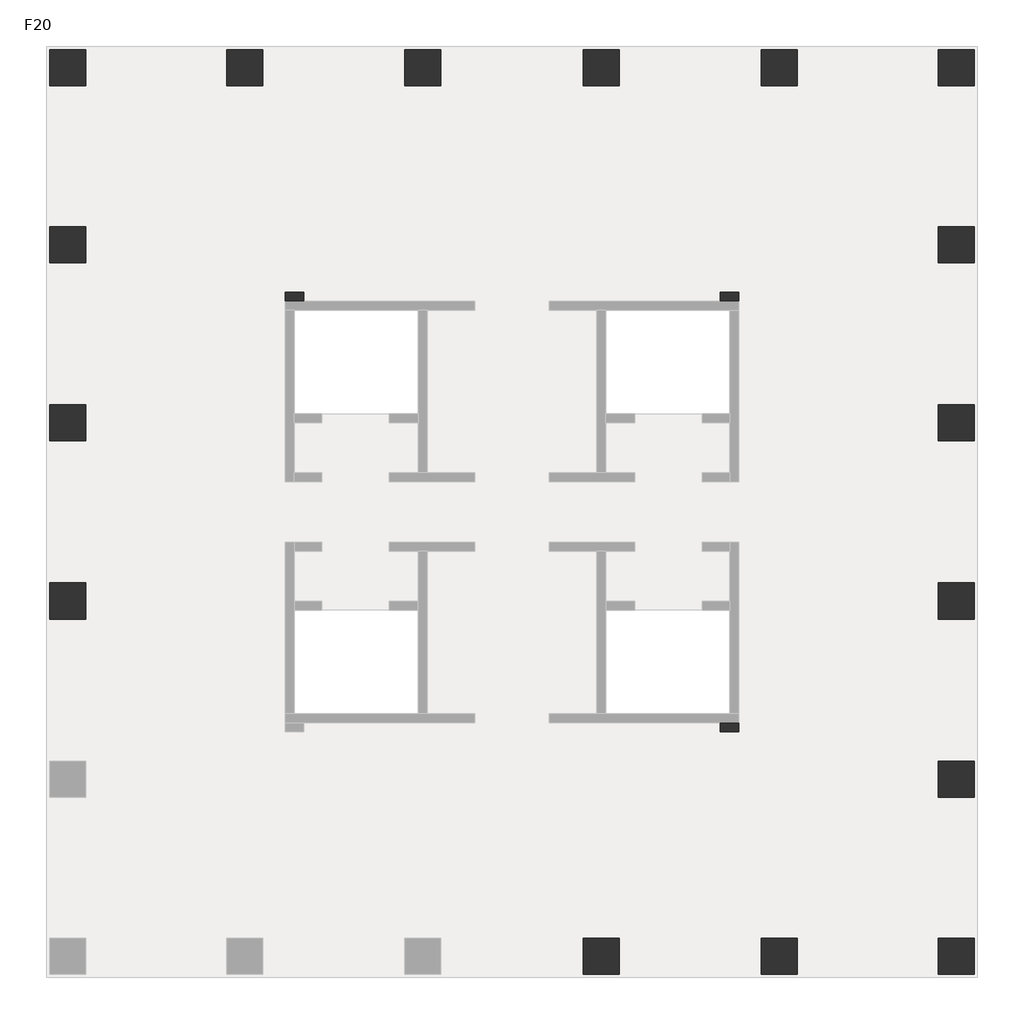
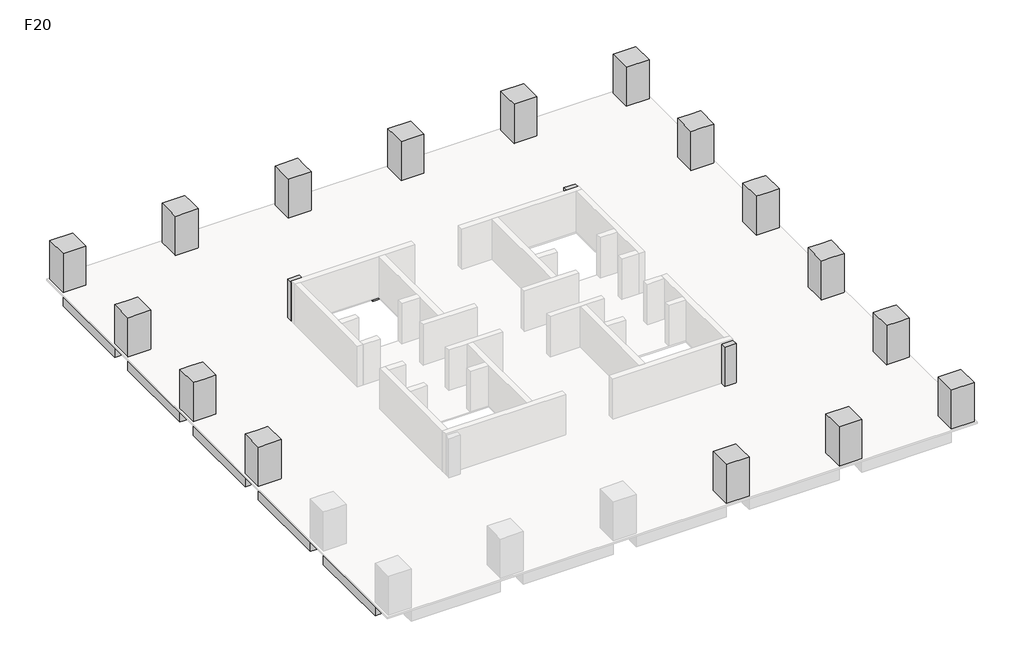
# One storey, part 2 of 2: 19 columns, 17 beams.
"""IFC4 building model written with IfcOpenShell, lengths in millimetres."""

from ifc_helpers import new_model, si_unit, frame, origin, place, context, project, spatial, polyline, outline, extrude, faceted_brep, element, save

model = new_model("IFC4")

# Units and contexts
model_context = context("Model", 3, world=origin())
ifc_project = project(units=[si_unit("LENGTHUNIT", "METRE", prefix="MILLI")], contexts=[model_context])

# Site, building, storey
site = spatial("IfcSite", under=ifc_project)
building = spatial("IfcBuilding", under=site)
storey = spatial("IfcBuildingStorey", under=building, Name="F20", Elevation=78000.0)

# Beams
placement = place(None, origin())
element("IfcBeam", 1, ObjectType="混凝土 - 矩形梁 : KL(5)-800x1000", at=placement, inside=storey, context=model_context, shape_type="SweptSolid", body=[
    extrude(outline(polyline([(25327.3257831, 27051.0498658), (25327.3257831, 26251.0498658), (19077.3257831, 26251.0498658), (19077.3257831, 27051.0498658), (25327.3257831, 27051.0498658)])), frame((0.0, 0.0, 77000.0), z_axis=(0.0, 0.0, 1.0), x_axis=(1.0, 0.0, 0.0)), (0.0, 0.0, 1.0), 900.0),
    extrude(outline(polyline([(-12472.6742169, 26251.0498658), (-12472.6742169, 27051.0498658), (-6222.6742169, 27051.0498658), (-6222.6742169, 26251.0498658), (-12472.6742169, 26251.0498658)])), frame((0.0, 0.0, 77000.0), z_axis=(0.0, 0.0, 1.0), x_axis=(1.0, 0.0, 0.0)), (0.0, 0.0, 1.0), 900.0),
    extrude(outline(polyline([(-4622.6742169, 26251.0498658), (-4622.6742169, 27051.0498658), (1677.3257831, 27051.0498658), (1677.3257831, 26251.0498658), (-4622.6742169, 26251.0498658)])), frame((0.0, 0.0, 77000.0), z_axis=(0.0, 0.0, 1.0), x_axis=(1.0, 0.0, 0.0)), (0.0, 0.0, 1.0), 900.0),
    extrude(outline(polyline([(3277.3257831, 26251.0498658), (3277.3257831, 27051.0498658), (9577.3257831, 27051.0498658), (9577.3257831, 26251.0498658), (3277.3257831, 26251.0498658)])), frame((0.0, 0.0, 77000.0), z_axis=(0.0, 0.0, 1.0), x_axis=(1.0, 0.0, 0.0)), (0.0, 0.0, 1.0), 900.0),
    extrude(outline(polyline([(11177.3257831, 26251.0498658), (11177.3257831, 27051.0498658), (17477.3257831, 27051.0498658), (17477.3257831, 26251.0498658), (11177.3257831, 26251.0498658)])), frame((0.0, 0.0, 77000.0), z_axis=(0.0, 0.0, 1.0), x_axis=(1.0, 0.0, 0.0)), (0.0, 0.0, 1.0), 900.0),
])
element("IfcBeam", 2, ObjectType="混凝土 - 矩形梁 : KL(5)-800x1000", at=placement, inside=storey, context=model_context, shape_type="SweptSolid", body=[
    extrude(outline(polyline([(26927.3257831, -12348.9501342), (26127.3257831, -12348.9501342), (26127.3257831, -6098.9501342), (26927.3257831, -6098.9501342), (26927.3257831, -12348.9501342)])), frame((0.0, 0.0, 77000.0), z_axis=(0.0, 0.0, 1.0), x_axis=(1.0, 0.0, 0.0)), (0.0, 0.0, 1.0), 900.0),
    extrude(outline(polyline([(26127.3257831, 25451.0498658), (26927.3257831, 25451.0498658), (26927.3257831, 19201.0498658), (26127.3257831, 19201.0498658), (26127.3257831, 25451.0498658)])), frame((0.0, 0.0, 77000.0), z_axis=(0.0, 0.0, 1.0), x_axis=(1.0, 0.0, 0.0)), (0.0, 0.0, 1.0), 900.0),
    extrude(outline(polyline([(26127.3257831, 17601.0498658), (26927.3257831, 17601.0498658), (26927.3257831, 11301.0498658), (26127.3257831, 11301.0498658), (26127.3257831, 17601.0498658)])), frame((0.0, 0.0, 77000.0), z_axis=(0.0, 0.0, 1.0), x_axis=(1.0, 0.0, 0.0)), (0.0, 0.0, 1.0), 900.0),
    extrude(outline(polyline([(26127.3257831, 9701.0498658), (26927.3257831, 9701.0498658), (26927.3257831, 3401.0498658), (26127.3257831, 3401.0498658), (26127.3257831, 9701.0498658)])), frame((0.0, 0.0, 77000.0), z_axis=(0.0, 0.0, 1.0), x_axis=(1.0, 0.0, 0.0)), (0.0, 0.0, 1.0), 900.0),
    extrude(outline(polyline([(26127.3257831, 1801.0498658), (26927.3257831, 1801.0498658), (26927.3257831, -4498.9501342), (26127.3257831, -4498.9501342), (26127.3257831, 1801.0498658)])), frame((0.0, 0.0, 77000.0), z_axis=(0.0, 0.0, 1.0), x_axis=(1.0, 0.0, 0.0)), (0.0, 0.0, 1.0), 900.0),
])
element("IfcBeam", 3, ObjectType="混凝土 - 矩形梁 : KL(5)-800x1000", at=placement, inside=storey, context=model_context, shape_type="SweptSolid", body=[
    extrude(outline(polyline([(-14072.6742169, 25451.0498658), (-13272.6742169, 25451.0498658), (-13272.6742169, 19201.0498658), (-14072.6742169, 19201.0498658), (-14072.6742169, 25451.0498658)])), frame((0.0, 0.0, 77000.0), z_axis=(0.0, 0.0, 1.0), x_axis=(1.0, 0.0, 0.0)), (0.0, 0.0, 1.0), 900.0),
    extrude(outline(polyline([(-13272.6742169, -12348.9501342), (-14072.6742169, -12348.9501342), (-14072.6742169, -6098.9501342), (-13272.6742169, -6098.9501342), (-13272.6742169, -12348.9501342)])), frame((0.0, 0.0, 77000.0), z_axis=(0.0, 0.0, 1.0), x_axis=(1.0, 0.0, 0.0)), (0.0, 0.0, 1.0), 900.0),
    extrude(outline(polyline([(-14072.6742169, 17601.0498658), (-13272.6742169, 17601.0498658), (-13272.6742169, 11301.0498658), (-14072.6742169, 11301.0498658), (-14072.6742169, 17601.0498658)])), frame((0.0, 0.0, 77000.0), z_axis=(0.0, 0.0, 1.0), x_axis=(1.0, 0.0, 0.0)), (0.0, 0.0, 1.0), 900.0),
    extrude(outline(polyline([(-14072.6742169, 9701.0498658), (-13272.6742169, 9701.0498658), (-13272.6742169, 3401.0498658), (-14072.6742169, 3401.0498658), (-14072.6742169, 9701.0498658)])), frame((0.0, 0.0, 77000.0), z_axis=(0.0, 0.0, 1.0), x_axis=(1.0, 0.0, 0.0)), (0.0, 0.0, 1.0), 900.0),
    extrude(outline(polyline([(-14072.6742169, 1801.0498658), (-13272.6742169, 1801.0498658), (-13272.6742169, -4498.9501342), (-14072.6742169, -4498.9501342), (-14072.6742169, 1801.0498658)])), frame((0.0, 0.0, 77000.0), z_axis=(0.0, 0.0, 1.0), x_axis=(1.0, 0.0, 0.0)), (0.0, 0.0, 1.0), 900.0),
])
element("IfcBeam", 4, ObjectType="混凝土 - 矩形梁 : L1-800x500", at=placement, inside=storey, context=model_context, shape_type="SweptSolid", body=[
    extrude(outline(polyline([(-12472.6742169, 2201.0498658), (-12472.6742169, 3001.0498658), (-3622.6742169, 3001.0498658), (-3622.6742169, 2201.0498658), (-12472.6742169, 2201.0498658)])), frame((0.0, 0.0, 77500.0), z_axis=(0.0, 0.0, 1.0), x_axis=(1.0, 0.0, 0.0)), (0.0, 0.0, 1.0), 400.0),
])
element("IfcBeam", 5, ObjectType="混凝土 - 矩形梁 : L1-800x500", at=placement, inside=storey, context=model_context, shape_type="SweptSolid", body=[
    extrude(outline(polyline([(-12472.6742169, 10101.0498658), (-12472.6742169, 10901.0498658), (-3622.6742169, 10901.0498658), (-3622.6742169, 10101.0498658), (-12472.6742169, 10101.0498658)])), frame((0.0, 0.0, 77500.0), z_axis=(0.0, 0.0, 1.0), x_axis=(1.0, 0.0, 0.0)), (0.0, 0.0, 1.0), 400.0),
])
element("IfcBeam", 6, ObjectType="混凝土 - 矩形梁 : L1-800x500", at=placement, inside=storey, context=model_context, shape_type="Brep", body=[
    faceted_brep([(-12472.6742169, 17789.85471, 77500.0), (-3622.6742169, 15588.3621727, 77500.0), (-3622.6742169, 15588.3621727, 77900.0), (-12472.6742169, 17789.85471, 77900.0), (-3173.6696907, 16301.0498658, 77500.0), (-3622.6742169, 16301.0498658, 77500.0), (-3622.6742169, 15901.0498658, 77500.0), (-12472.6742169, 18614.2350714, 77500.0), (-3746.9473979, 16443.6562607, 77500.0), (-12472.6742169, 18614.2350714, 77900.0), (-3746.9473979, 16443.6562607, 77900.0), (-3173.6696907, 16301.0498658, 77900.0), (-3622.6742169, 16301.0498658, 77900.0)], [[[0, 1, 2, 3]], [[4, 5, 6, 1, 0, 7, 8]], [[4, 8, 7, 9, 10, 11]], [[6, 5, 12, 2, 1]], [[5, 4, 11, 12]], [[7, 0, 3, 9]], [[3, 2, 12, 11, 10, 9]]]),
])
element("IfcBeam", 7, ObjectType="混凝土 - 矩形梁 : L1-800x500", at=placement, inside=storey, context=model_context, shape_type="SweptSolid", body=[
    extrude(outline(polyline([(-3173.6696907, 16301.0498658), (-3746.9473979, 16443.6562607), (-5661.5624638, 25451.0498658), (-4843.6893517, 25451.0498658), (-2898.7618154, 16301.0498658), (-3173.6696907, 16301.0498658)])), frame((0.0, 0.0, 77500.0), z_axis=(0.0, 0.0, 1.0), x_axis=(1.0, 0.0, 0.0)), (0.0, 0.0, 1.0), 400.0),
])
element("IfcBeam", 8, ObjectType="混凝土 - 矩形梁 : L1-800x500", at=placement, inside=storey, context=model_context, shape_type="SweptSolid", body=[
    extrude(outline(polyline([(2077.3257831, 25451.0498658), (2877.3257831, 25451.0498658), (2877.3257831, 15901.0498658), (2077.3257831, 15901.0498658), (2077.3257831, 25451.0498658)])), frame((0.0, 0.0, 77500.0), z_axis=(0.0, 0.0, 1.0), x_axis=(1.0, 0.0, 0.0)), (0.0, 0.0, 1.0), 400.0),
])
element("IfcBeam", 9, ObjectType="混凝土 - 矩形梁 : L1-800x500", at=placement, inside=storey, context=model_context, shape_type="SweptSolid", body=[
    extrude(outline(polyline([(9977.3257831, 25451.0498658), (10777.3257831, 25451.0498658), (10777.3257831, 15901.0498658), (9977.3257831, 15901.0498658), (9977.3257831, 25451.0498658)])), frame((0.0, 0.0, 77500.0), z_axis=(0.0, 0.0, 1.0), x_axis=(1.0, 0.0, 0.0)), (0.0, 0.0, 1.0), 400.0),
])
element("IfcBeam", 10, ObjectType="混凝土 - 矩形梁 : L1-800x500", at=placement, inside=storey, context=model_context, shape_type="SweptSolid", body=[
    extrude(outline(polyline([(2877.3257831, -12348.9501342), (2077.3257831, -12348.9501342), (2077.3257831, -2798.9501342), (2877.3257831, -2798.9501342), (2877.3257831, -12348.9501342)])), frame((0.0, 0.0, 77500.0), z_axis=(0.0, 0.0, 1.0), x_axis=(1.0, 0.0, 0.0)), (0.0, 0.0, 1.0), 400.0),
])
element("IfcBeam", 11, ObjectType="混凝土 - 矩形梁 : L1-800x500", at=placement, inside=storey, context=model_context, shape_type="SweptSolid", body=[
    extrude(outline(polyline([(10777.3257831, -12348.9501342), (9977.3257831, -12348.9501342), (9977.3257831, -2798.9501342), (10777.3257831, -2798.9501342), (10777.3257831, -12348.9501342)])), frame((0.0, 0.0, 77500.0), z_axis=(0.0, 0.0, 1.0), x_axis=(1.0, 0.0, 0.0)), (0.0, 0.0, 1.0), 400.0),
])
element("IfcBeam", 12, ObjectType="混凝土 - 矩形梁 : L1-800x500", at=placement, inside=storey, context=model_context, shape_type="Brep", body=[
    faceted_brep([(25327.3257831, -4687.7549784, 77500.0), (16477.3257831, -2486.2624411, 77500.0), (16477.3257831, -2486.2624411, 77900.0), (25327.3257831, -4687.7549784, 77900.0), (16028.3212569, -3198.9501342, 77500.0), (16477.3257831, -3198.9501342, 77500.0), (16477.3257831, -2798.9501342, 77500.0), (25327.3257831, -5512.1353397, 77500.0), (16601.5989641, -3341.556529, 77500.0), (25327.3257831, -5512.1353397, 77900.0), (16601.5989641, -3341.556529, 77900.0), (16028.3212569, -3198.9501342, 77900.0), (16477.3257831, -3198.9501342, 77900.0)], [[[0, 1, 2, 3]], [[4, 5, 6, 1, 0, 7, 8]], [[4, 8, 7, 9, 10, 11]], [[6, 5, 12, 2, 1]], [[5, 4, 11, 12]], [[7, 0, 3, 9]], [[3, 2, 12, 11, 10, 9]]]),
])
element("IfcBeam", 13, ObjectType="混凝土 - 矩形梁 : L1-800x500", at=placement, inside=storey, context=model_context, shape_type="SweptSolid", body=[
    extrude(outline(polyline([(16028.3212569, -3198.9501342), (16601.5989641, -3341.556529), (18516.21403, -12348.9501342), (17698.3409179, -12348.9501342), (15753.4133817, -3198.9501342), (16028.3212569, -3198.9501342)])), frame((0.0, 0.0, 77500.0), z_axis=(0.0, 0.0, 1.0), x_axis=(1.0, 0.0, 0.0)), (0.0, 0.0, 1.0), 400.0),
])
element("IfcBeam", 14, ObjectType="混凝土 - 矩形梁 : L1-800x500", at=placement, inside=storey, context=model_context, shape_type="SweptSolid", body=[
    extrude(outline(polyline([(25327.3257831, 3001.0498658), (25327.3257831, 2201.0498658), (16477.3257831, 2201.0498658), (16477.3257831, 3001.0498658), (25327.3257831, 3001.0498658)])), frame((0.0, 0.0, 77500.0), z_axis=(0.0, 0.0, 1.0), x_axis=(1.0, 0.0, 0.0)), (0.0, 0.0, 1.0), 400.0),
])
element("IfcBeam", 15, ObjectType="混凝土 - 矩形梁 : L1-800x500", at=placement, inside=storey, context=model_context, shape_type="SweptSolid", body=[
    extrude(outline(polyline([(25327.3257831, 10901.0498658), (25327.3257831, 10101.0498658), (16477.3257831, 10101.0498658), (16477.3257831, 10901.0498658), (25327.3257831, 10901.0498658)])), frame((0.0, 0.0, 77500.0), z_axis=(0.0, 0.0, 1.0), x_axis=(1.0, 0.0, 0.0)), (0.0, 0.0, 1.0), 400.0),
])
element("IfcBeam", 16, ObjectType="混凝土 - 矩形梁 : L1-800x500", at=placement, inside=storey, context=model_context, shape_type="Brep", body=[
    faceted_brep([(25327.3257831, 18610.6867312, 77500.0), (16590.8993897, 16393.3196262, 77500.0), (16227.3565337, 16301.0498658, 77500.0), (16227.3565337, 16301.0498658, 77900.0), (16590.8993897, 16393.3196262, 77900.0), (25327.3257831, 18610.6867312, 77900.0), (16477.3257831, 16301.0498658, 77500.0), (25327.3257831, 17785.3216299, 77500.0), (16477.3257831, 15539.1287365, 77500.0), (16477.3257831, 15901.0498658, 77500.0), (25327.3257831, 17785.3216299, 77900.0), (16477.3257831, 15539.1287365, 77900.0), (16477.3257831, 16301.0498658, 77900.0)], [[[0, 1, 2, 3, 4, 5]], [[6, 2, 1, 0, 7, 8, 9]], [[8, 7, 10, 11]], [[9, 8, 11, 12, 6]], [[2, 6, 12, 3]], [[7, 0, 5, 10]], [[5, 4, 3, 12, 11, 10]]]),
])
element("IfcBeam", 17, ObjectType="混凝土 - 矩形梁 : L1-800x500", at=placement, inside=storey, context=model_context, shape_type="SweptSolid", body=[
    extrude(outline(polyline([(16590.8993897, 16393.3196262), (16227.3565337, 16301.0498658), (15753.4133817, 16301.0498658), (17698.3409179, 25451.0498658), (18516.21403, 25451.0498658), (16590.8993897, 16393.3196262)])), frame((0.0, 0.0, 77500.0), z_axis=(0.0, 0.0, 1.0), x_axis=(1.0, 0.0, 0.0)), (0.0, 0.0, 1.0), 400.0),
])

# Columns
element("IfcColumn", 18, ObjectType="混凝土 - 矩形 - 柱 : Z1-1600x1600", at=placement, inside=storey, context=model_context, shape_type="SweptSolid", body=[
    extrude(outline(polyline([(-12472.6742169, 27051.0498658), (-12472.6742169, 25451.0498658), (-14072.6742169, 25451.0498658), (-14072.6742169, 27051.0498658), (-12472.6742169, 27051.0498658)])), frame((0.0, 0.0, 78000.0), z_axis=(0.0, 0.0, 1.0), x_axis=(1.0, 0.0, 0.0)), (0.0, 0.0, 1.0), 2900.0),
])
element("IfcColumn", 19, ObjectType="混凝土 - 矩形 - 柱 : Z1-1600x1600", at=placement, inside=storey, context=model_context, shape_type="Brep", body=[
    faceted_brep([(-4622.6742169, 27051.0498658, 78000.0), (-4622.6742169, 25451.0498658, 78000.0), (-6222.6742169, 25451.0498658, 78000.0), (-6222.6742169, 27051.0498658, 78000.0), (-4622.6742169, 27051.0498658, 80000.0), (-4622.6742169, 27051.0498658, 80900.0), (-4622.6742169, 26251.0498658, 80900.0), (-4622.6742169, 25451.0498658, 80900.0), (-6222.6742169, 25451.0498658, 80900.0), (-6222.6742169, 26251.0498658, 80900.0), (-6222.6742169, 27051.0498658, 80900.0), (-6222.6742169, 27051.0498658, 80000.0)], [[[0, 1, 2, 3]], [[1, 0, 4, 5, 6, 7]], [[2, 1, 7, 8]], [[3, 2, 8, 9, 10, 11]], [[0, 3, 11, 10, 5, 4]], [[7, 6, 5, 10, 9, 8]]]),
])
element("IfcColumn", 20, ObjectType="混凝土 - 矩形 - 柱 : Z1-1600x1600", at=placement, inside=storey, context=model_context, shape_type="Brep", body=[
    faceted_brep([(-12472.6742169, 19201.0498658, 78000.0), (-12472.6742169, 17601.0498658, 78000.0), (-14072.6742169, 17601.0498658, 78000.0), (-14072.6742169, 19201.0498658, 78000.0), (-12472.6742169, 19201.0498658, 80900.0), (-12472.6742169, 17601.0498658, 80900.0), (-13272.6742169, 17601.0498658, 80900.0), (-14072.6742169, 17601.0498658, 80900.0), (-14072.6742169, 17601.0498658, 80000.0), (-14072.6742169, 19201.0498658, 80900.0), (-14072.6742169, 19201.0498658, 80000.0), (-13272.6742169, 19201.0498658, 80900.0)], [[[0, 1, 2, 3]], [[1, 0, 4, 5]], [[2, 1, 5, 6, 7, 8]], [[3, 2, 8, 7, 9, 10]], [[0, 3, 10, 9, 11, 4]], [[5, 4, 11, 9, 7, 6]]]),
])
element("IfcColumn", 21, ObjectType="混凝土 - 矩形 - 柱 : Z1-1600x1600", at=placement, inside=storey, context=model_context, shape_type="Brep", body=[
    faceted_brep([(-12472.6742169, 11301.0498658, 78000.0), (-12472.6742169, 9701.0498658, 78000.0), (-14072.6742169, 9701.0498658, 78000.0), (-14072.6742169, 11301.0498658, 78000.0), (-12472.6742169, 11301.0498658, 80900.0), (-12472.6742169, 9701.0498658, 80900.0), (-13272.6742169, 9701.0498658, 80900.0), (-14072.6742169, 9701.0498658, 80900.0), (-14072.6742169, 9701.0498658, 80000.0), (-14072.6742169, 11301.0498658, 80900.0), (-14072.6742169, 11301.0498658, 80000.0), (-13272.6742169, 11301.0498658, 80900.0)], [[[0, 1, 2, 3]], [[1, 0, 4, 5]], [[2, 1, 5, 6, 7, 8]], [[3, 2, 8, 7, 9, 10]], [[0, 3, 10, 9, 11, 4]], [[5, 4, 11, 9, 7, 6]]]),
])
element("IfcColumn", 22, ObjectType="混凝土 - 矩形 - 柱 : Z1-1600x1600", at=placement, inside=storey, context=model_context, shape_type="Brep", body=[
    faceted_brep([(-12472.6742169, 3401.0498658, 78000.0), (-12472.6742169, 1801.0498658, 78000.0), (-14072.6742169, 1801.0498658, 78000.0), (-14072.6742169, 3401.0498658, 78000.0), (-12472.6742169, 3401.0498658, 80900.0), (-12472.6742169, 1801.0498658, 80900.0), (-13272.6742169, 1801.0498658, 80900.0), (-14072.6742169, 1801.0498658, 80900.0), (-14072.6742169, 1801.0498658, 80000.0), (-14072.6742169, 3401.0498658, 80900.0), (-14072.6742169, 3401.0498658, 80000.0), (-13272.6742169, 3401.0498658, 80900.0)], [[[0, 1, 2, 3]], [[1, 0, 4, 5]], [[2, 1, 5, 6, 7, 8]], [[3, 2, 8, 7, 9, 10]], [[0, 3, 10, 9, 11, 4]], [[5, 4, 11, 9, 7, 6]]]),
])
element("IfcColumn", 23, ObjectType="混凝土 - 矩形 - 柱 : Z1-1600x1600", at=placement, inside=storey, context=model_context, shape_type="SweptSolid", body=[
    extrude(outline(polyline([(25327.3257831, 27051.0498658), (26927.3257831, 27051.0498658), (26927.3257831, 25451.0498658), (25327.3257831, 25451.0498658), (25327.3257831, 27051.0498658)])), frame((0.0, 0.0, 78000.0), z_axis=(0.0, 0.0, 1.0), x_axis=(1.0, 0.0, 0.0)), (0.0, 0.0, 1.0), 2900.0),
])
element("IfcColumn", 24, ObjectType="混凝土 - 矩形 - 柱 : Z1-1600x1600", at=placement, inside=storey, context=model_context, shape_type="Brep", body=[
    faceted_brep([(25327.3257831, 19201.0498658, 78000.0), (26927.3257831, 19201.0498658, 78000.0), (26927.3257831, 17601.0498658, 78000.0), (25327.3257831, 17601.0498658, 78000.0), (25327.3257831, 17601.0498658, 80900.0), (25327.3257831, 19201.0498658, 80900.0), (26927.3257831, 17601.0498658, 80000.0), (26927.3257831, 17601.0498658, 80900.0), (26127.3257831, 17601.0498658, 80900.0), (26927.3257831, 19201.0498658, 80000.0), (26927.3257831, 19201.0498658, 80900.0), (26127.3257831, 19201.0498658, 80900.0)], [[[0, 1, 2, 3]], [[0, 3, 4, 5]], [[3, 2, 6, 7, 8, 4]], [[2, 1, 9, 10, 7, 6]], [[1, 0, 5, 11, 10, 9]], [[5, 4, 8, 7, 10, 11]]]),
])
element("IfcColumn", 25, ObjectType="混凝土 - 矩形 - 柱 : Z1-1600x1600", at=placement, inside=storey, context=model_context, shape_type="Brep", body=[
    faceted_brep([(25327.3257831, 11301.0498658, 78000.0), (26927.3257831, 11301.0498658, 78000.0), (26927.3257831, 9701.0498658, 78000.0), (25327.3257831, 9701.0498658, 78000.0), (25327.3257831, 9701.0498658, 80900.0), (25327.3257831, 11301.0498658, 80900.0), (26927.3257831, 9701.0498658, 80000.0), (26927.3257831, 9701.0498658, 80900.0), (26127.3257831, 9701.0498658, 80900.0), (26927.3257831, 11301.0498658, 80000.0), (26927.3257831, 11301.0498658, 80900.0), (26127.3257831, 11301.0498658, 80900.0)], [[[0, 1, 2, 3]], [[0, 3, 4, 5]], [[3, 2, 6, 7, 8, 4]], [[2, 1, 9, 10, 7, 6]], [[1, 0, 5, 11, 10, 9]], [[5, 4, 8, 7, 10, 11]]]),
])
element("IfcColumn", 26, ObjectType="混凝土 - 矩形 - 柱 : Z1-1600x1600", at=placement, inside=storey, context=model_context, shape_type="Brep", body=[
    faceted_brep([(25327.3257831, 3401.0498658, 78000.0), (26927.3257831, 3401.0498658, 78000.0), (26927.3257831, 1801.0498658, 78000.0), (25327.3257831, 1801.0498658, 78000.0), (25327.3257831, 1801.0498658, 80900.0), (25327.3257831, 3401.0498658, 80900.0), (26927.3257831, 1801.0498658, 80000.0), (26927.3257831, 1801.0498658, 80900.0), (26127.3257831, 1801.0498658, 80900.0), (26927.3257831, 3401.0498658, 80000.0), (26927.3257831, 3401.0498658, 80900.0), (26127.3257831, 3401.0498658, 80900.0)], [[[0, 1, 2, 3]], [[0, 3, 4, 5]], [[3, 2, 6, 7, 8, 4]], [[2, 1, 9, 10, 7, 6]], [[1, 0, 5, 11, 10, 9]], [[5, 4, 8, 7, 10, 11]]]),
])
element("IfcColumn", 27, ObjectType="混凝土 - 矩形 - 柱 : Z1-1600x1600", at=placement, inside=storey, context=model_context, shape_type="Brep", body=[
    faceted_brep([(25327.3257831, -4498.9501342, 78000.0), (26927.3257831, -4498.9501342, 78000.0), (26927.3257831, -6098.9501342, 78000.0), (25327.3257831, -6098.9501342, 78000.0), (25327.3257831, -6098.9501342, 80900.0), (25327.3257831, -4498.9501342, 80900.0), (26927.3257831, -6098.9501342, 80000.0), (26927.3257831, -6098.9501342, 80900.0), (26127.3257831, -6098.9501342, 80900.0), (26927.3257831, -4498.9501342, 80000.0), (26927.3257831, -4498.9501342, 80900.0), (26127.3257831, -4498.9501342, 80900.0)], [[[0, 1, 2, 3]], [[0, 3, 4, 5]], [[3, 2, 6, 7, 8, 4]], [[2, 1, 9, 10, 7, 6]], [[1, 0, 5, 11, 10, 9]], [[5, 4, 8, 7, 10, 11]]]),
])
element("IfcColumn", 28, ObjectType="混凝土 - 矩形 - 柱 : Z1-1600x1600", at=placement, inside=storey, context=model_context, shape_type="SweptSolid", body=[
    extrude(outline(polyline([(25327.3257831, -12348.9501342), (26927.3257831, -12348.9501342), (26927.3257831, -13948.9501342), (25327.3257831, -13948.9501342), (25327.3257831, -12348.9501342)])), frame((0.0, 0.0, 78000.0), z_axis=(0.0, 0.0, 1.0), x_axis=(1.0, 0.0, 0.0)), (0.0, 0.0, 1.0), 2900.0),
])
element("IfcColumn", 29, ObjectType="混凝土 - 矩形 - 柱 : Z1-1600x1600", at=placement, inside=storey, context=model_context, shape_type="Brep", body=[
    faceted_brep([(3277.3257831, 27051.0498658, 78000.0), (3277.3257831, 25451.0498658, 78000.0), (1677.3257831, 25451.0498658, 78000.0), (1677.3257831, 27051.0498658, 78000.0), (3277.3257831, 27051.0498658, 80000.0), (3277.3257831, 27051.0498658, 80900.0), (3277.3257831, 26251.0498658, 80900.0), (3277.3257831, 25451.0498658, 80900.0), (1677.3257831, 25451.0498658, 80900.0), (1677.3257831, 26251.0498658, 80900.0), (1677.3257831, 27051.0498658, 80900.0), (1677.3257831, 27051.0498658, 80000.0)], [[[0, 1, 2, 3]], [[1, 0, 4, 5, 6, 7]], [[2, 1, 7, 8]], [[3, 2, 8, 9, 10, 11]], [[0, 3, 11, 10, 5, 4]], [[7, 6, 5, 10, 9, 8]]]),
])
element("IfcColumn", 30, ObjectType="混凝土 - 矩形 - 柱 : Z1-1600x1600", at=placement, inside=storey, context=model_context, shape_type="Brep", body=[
    faceted_brep([(11177.3257831, 27051.0498658, 78000.0), (11177.3257831, 25451.0498658, 78000.0), (9577.3257831, 25451.0498658, 78000.0), (9577.3257831, 27051.0498658, 78000.0), (11177.3257831, 27051.0498658, 80000.0), (11177.3257831, 27051.0498658, 80900.0), (11177.3257831, 26251.0498658, 80900.0), (11177.3257831, 25451.0498658, 80900.0), (9577.3257831, 25451.0498658, 80900.0), (9577.3257831, 26251.0498658, 80900.0), (9577.3257831, 27051.0498658, 80900.0), (9577.3257831, 27051.0498658, 80000.0)], [[[0, 1, 2, 3]], [[1, 0, 4, 5, 6, 7]], [[2, 1, 7, 8]], [[3, 2, 8, 9, 10, 11]], [[0, 3, 11, 10, 5, 4]], [[7, 6, 5, 10, 9, 8]]]),
])
element("IfcColumn", 31, ObjectType="混凝土 - 矩形 - 柱 : Z1-1600x1600", at=placement, inside=storey, context=model_context, shape_type="Brep", body=[
    faceted_brep([(19077.3257831, 27051.0498658, 78000.0), (19077.3257831, 25451.0498658, 78000.0), (17477.3257831, 25451.0498658, 78000.0), (17477.3257831, 27051.0498658, 78000.0), (19077.3257831, 27051.0498658, 80000.0), (19077.3257831, 27051.0498658, 80900.0), (19077.3257831, 26251.0498658, 80900.0), (19077.3257831, 25451.0498658, 80900.0), (17477.3257831, 25451.0498658, 80900.0), (17477.3257831, 26251.0498658, 80900.0), (17477.3257831, 27051.0498658, 80900.0), (17477.3257831, 27051.0498658, 80000.0)], [[[0, 1, 2, 3]], [[1, 0, 4, 5, 6, 7]], [[2, 1, 7, 8]], [[3, 2, 8, 9, 10, 11]], [[0, 3, 11, 10, 5, 4]], [[7, 6, 5, 10, 9, 8]]]),
])
element("IfcColumn", 32, ObjectType="混凝土 - 矩形 - 柱 : Z1-1600x1600", at=placement, inside=storey, context=model_context, shape_type="Brep", body=[
    faceted_brep([(11177.3257831, -12348.9501342, 78000.0), (11177.3257831, -13948.9501342, 78000.0), (9577.3257831, -13948.9501342, 78000.0), (9577.3257831, -12348.9501342, 78000.0), (11177.3257831, -12348.9501342, 80900.0), (11177.3257831, -13148.9501342, 80900.0), (11177.3257831, -13948.9501342, 80900.0), (11177.3257831, -13948.9501342, 80000.0), (9577.3257831, -13948.9501342, 80900.0), (9577.3257831, -13948.9501342, 80000.0), (9577.3257831, -13148.9501342, 80900.0), (9577.3257831, -12348.9501342, 80900.0)], [[[0, 1, 2, 3]], [[1, 0, 4, 5, 6, 7]], [[2, 1, 7, 6, 8, 9]], [[3, 2, 9, 8, 10, 11]], [[0, 3, 11, 4]], [[6, 5, 4, 11, 10, 8]]]),
])
element("IfcColumn", 33, ObjectType="混凝土 - 矩形 - 柱 : Z1-1600x1600", at=placement, inside=storey, context=model_context, shape_type="Brep", body=[
    faceted_brep([(19077.3257831, -12348.9501342, 78000.0), (19077.3257831, -13948.9501342, 78000.0), (17477.3257831, -13948.9501342, 78000.0), (17477.3257831, -12348.9501342, 78000.0), (19077.3257831, -12348.9501342, 80900.0), (19077.3257831, -13148.9501342, 80900.0), (19077.3257831, -13948.9501342, 80900.0), (19077.3257831, -13948.9501342, 80000.0), (17477.3257831, -13948.9501342, 80900.0), (17477.3257831, -13948.9501342, 80000.0), (17477.3257831, -13148.9501342, 80900.0), (17477.3257831, -12348.9501342, 80900.0)], [[[0, 1, 2, 3]], [[1, 0, 4, 5, 6, 7]], [[2, 1, 7, 6, 8, 9]], [[3, 2, 9, 8, 10, 11]], [[0, 3, 11, 4]], [[6, 5, 4, 11, 10, 8]]]),
])
element("IfcColumn", 34, ObjectType="混凝土 - 矩形 - 柱 : Z2-800x800", at=placement, inside=storey, context=model_context, shape_type="SweptSolid", body=[
    extrude(outline(polyline([(-3622.6742169, 16301.0498658), (-2822.6742169, 16301.0498658), (-2822.6742169, 15901.0498658), (-3622.6742169, 15901.0498658), (-3622.6742169, 16301.0498658)])), frame((0.0, 0.0, 78000.0), z_axis=(0.0, 0.0, 1.0), x_axis=(1.0, 0.0, 0.0)), (0.0, 0.0, 1.0), 2900.0),
])
element("IfcColumn", 35, ObjectType="混凝土 - 矩形 - 柱 : Z2-800x800", at=placement, inside=storey, context=model_context, shape_type="SweptSolid", body=[
    extrude(outline(polyline([(16477.3257831, -3198.9501342), (15677.3257831, -3198.9501342), (15677.3257831, -2798.9501342), (16477.3257831, -2798.9501342), (16477.3257831, -3198.9501342)])), frame((0.0, 0.0, 78000.0), z_axis=(0.0, 0.0, 1.0), x_axis=(1.0, 0.0, 0.0)), (0.0, 0.0, 1.0), 2900.0),
])
element("IfcColumn", 36, ObjectType="混凝土 - 矩形 - 柱 : Z2-800x800", at=placement, inside=storey, context=model_context, shape_type="SweptSolid", body=[
    extrude(outline(polyline([(15677.3257831, 16301.0498658), (16477.3257831, 16301.0498658), (16477.3257831, 15901.0498658), (15677.3257831, 15901.0498658), (15677.3257831, 16301.0498658)])), frame((0.0, 0.0, 78000.0), z_axis=(0.0, 0.0, 1.0), x_axis=(1.0, 0.0, 0.0)), (0.0, 0.0, 1.0), 2900.0),
])

save(model, "model.ifc")
